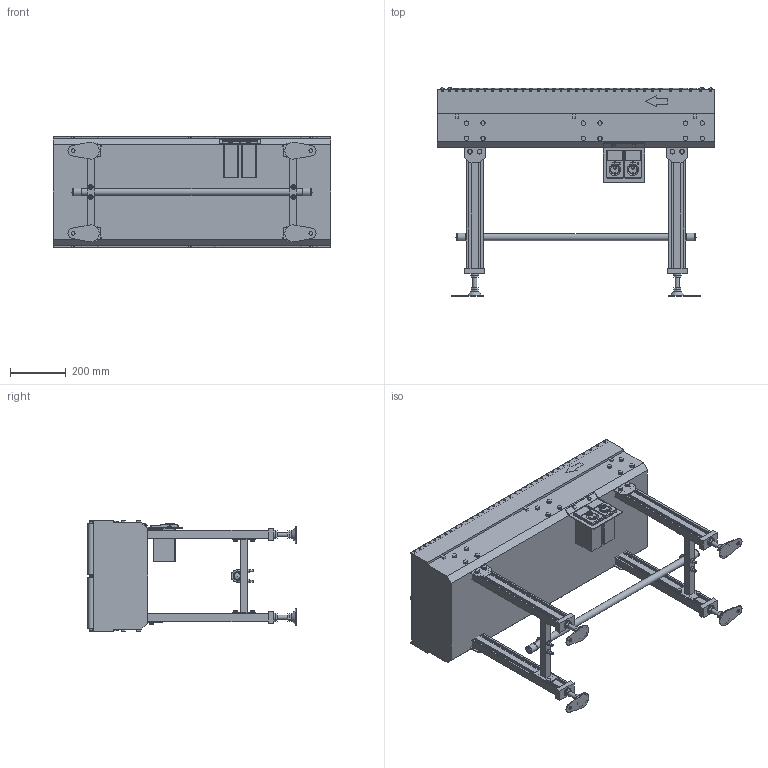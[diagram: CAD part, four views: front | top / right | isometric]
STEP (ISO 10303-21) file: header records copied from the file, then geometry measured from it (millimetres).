
FILE_DESCRIPTION (( 'STEP AP214' ), '1' );
FILE_NAME ('GA22-304x2-300-100-DC-7.5.STEP', '2024-08-08T23:10:00', ( '' ), ( '' ), 'SwSTEP 2.0', 'SolidWorks 2017', '' );
FILE_SCHEMA (( 'AUTOMOTIVE_DESIGN' ));
Length unit declared in the file: millimetre
Products named in the file (1): GA22-304x2-300-100-DC-7.5
Bounding box: 1000 x 750 x 403.46 mm (x, y, z)
Volume: 86591798.2 mm3; surface area: 3402126.2 mm2
Topology: 19 solids, 19 shells, 2063 faces, 5156 edges, 3418 vertices
Faces by surface type: plane 1486, cylinder 543, cone 18, torus 16
Full cylindrical faces by diameter (mm): 4.5 x8, 6 x70, 7 x4, 8 x140, 8.723 x8, 12.2 x2, 13 x4, 15.4 x40, 16 x8, 17 x12, 25.4 x1, 28.4 x2, 29.825 x2, 30 x4
Entity records: 59223 total; most frequent: CARTESIAN_POINT 11517, DIRECTION 9555, ORIENTED_EDGE 9414, EDGE_CURVE 4707, LINE 3403, VECTOR 3403, VERTEX_POINT 3300, AXIS2_PLACEMENT_3D 3076
